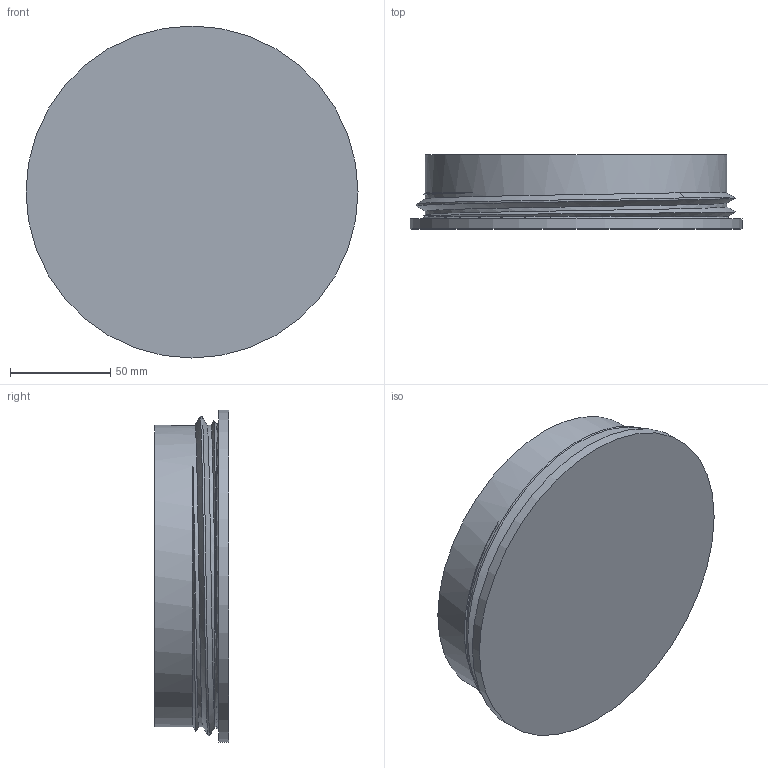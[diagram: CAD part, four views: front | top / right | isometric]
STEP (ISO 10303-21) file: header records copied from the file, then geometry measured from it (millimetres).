
FILE_DESCRIPTION(/* description */ (''),/* implementation_level */ '2;1');
FILE_NAME(/* name */ 'C:\IV2022WorkFolder\Designs\Bob\Oreo\Publish\Filling_Inner_180_short.stp',/* time_stamp */ '2022-12-19T10:56:07-06:00',/* author */ ('dotwibo2'),/* organization */ (''),/* preprocessor_version */ 'ST-DEVELOPER v18.1',/* originating_system */ 'Autodesk Inventor 2022',/* authorisation */ '');
FILE_SCHEMA (('CONFIG_CONTROL_DESIGN'));
Length unit declared in the file: millimetre
Products named in the file (1): Filling_Inner_180_short
Bounding box: 166 x 37 x 166 mm (x, y, z)
Volume: 135887.2 mm3; surface area: 79709 mm2
Topology: 1 solids, 1 shells, 15 faces, 32 edges, 21 vertices
Faces by surface type: cylinder 5, plane 4, bspline 2, cone 2, torus 2
Full cylindrical faces by diameter (mm): 144 x1, 150.75 x1, 166 x1
Entity records: 1527 total; most frequent: CARTESIAN_POINT 1172, ORIENTED_EDGE 64, DIRECTION 62, EDGE_CURVE 32, AXIS2_PLACEMENT_3D 29, VERTEX_POINT 21, EDGE_LOOP 17, FACE_OUTER_BOUND 15
